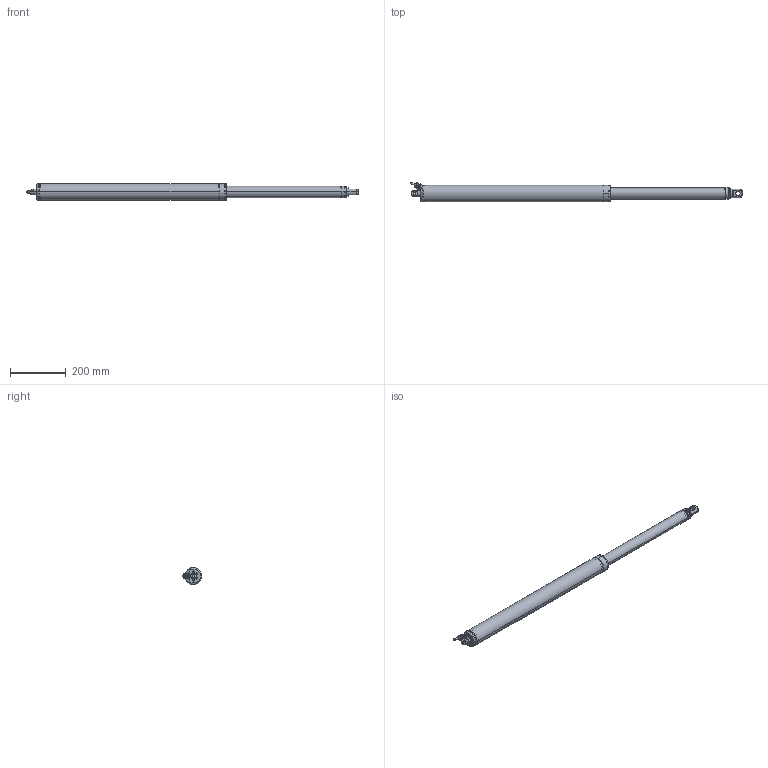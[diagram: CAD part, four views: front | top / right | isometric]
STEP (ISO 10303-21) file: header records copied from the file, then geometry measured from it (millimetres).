
FILE_DESCRIPTION((''),'2;1');
FILE_NAME('MK51_ASM','2026-08-19T',('rick'),(''),'PRO/ENGINEER BY PARAMETRIC TECHNOLOGY CORPORATION, 2016360','PRO/ENGINEER BY PARAMETRIC TECHNOLOGY CORPORATION, 2016360','');
FILE_SCHEMA(('CONFIG_CONTROL_DESIGN'));
Length unit declared in the file: millimetre
Products named in the file (3): 1; 2; MK51_ASM
Assembly tree (2 placements, depth 2):
  MK51_ASM
    1
    2
Bounding box: 1186.41 x 70.37 x 60 mm (x, y, z)
Volume: 558357.2 mm3; surface area: 459161.8 mm2
Topology: 2 solids, 5 shells, 474 faces, 1184 edges, 764 vertices
Faces by surface type: plane 228, cylinder 130, cone 80, torus 28, bspline 8
Entity records: 15778 total; most frequent: CARTESIAN_POINT 4337, DIRECTION 2388, ORIENTED_EDGE 2364, EDGE_CURVE 1182, AXIS2_PLACEMENT_3D 913, VERTEX_POINT 764, VECTOR 562, LINE 562
